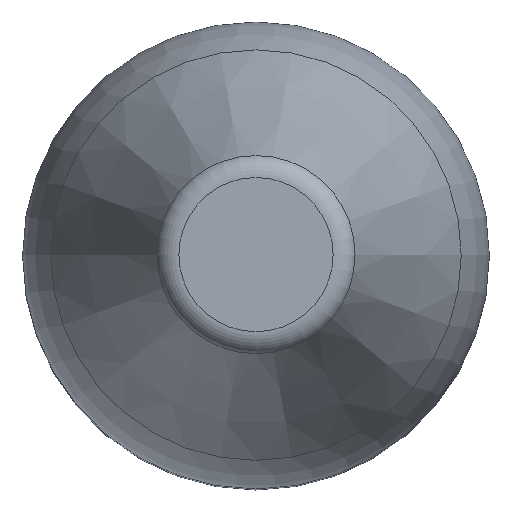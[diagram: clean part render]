
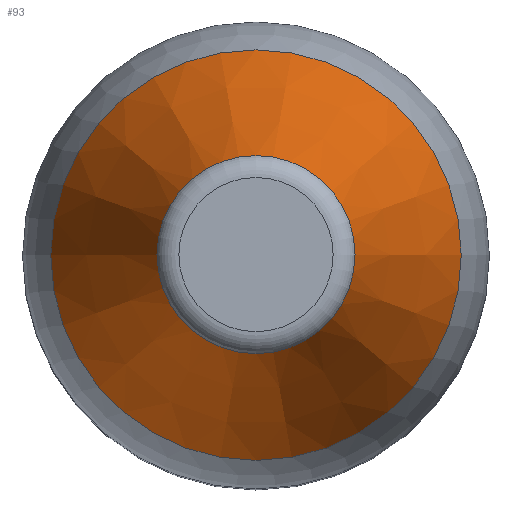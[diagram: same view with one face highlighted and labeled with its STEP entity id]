
A CAD part, top view. The second image highlights one B-rep face of the part: STEP entity #93.
In plain terms, the highlighted conical face has half-angle 20 degrees and reference radius 2.695 mm.
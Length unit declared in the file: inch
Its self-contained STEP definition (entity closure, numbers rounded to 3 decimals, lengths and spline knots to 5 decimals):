
#47 = ORIENTED_EDGE ( 'NONE', *, *, #70, .F. ) ;
#54 = DIRECTION ( 'NONE',  ( -1., 0., 0. ) ) ;
#56 = VERTEX_POINT ( 'NONE', #257 ) ;
#70 = EDGE_CURVE ( 'NONE', #56, #56, #84, .T. ) ;
#77 = AXIS2_PLACEMENT_3D ( 'NONE', #369, #176, #227 ) ;
#84 = CIRCLE ( 'NONE', #360, 0.21985 ) ;
#93 = ADVANCED_FACE ( 'NONE', ( #112, #168 ), #140, .T. ) ;
#98 = VERTEX_POINT ( 'NONE', #326 ) ;
#105 = ORIENTED_EDGE ( 'NONE', *, *, #318, .T. ) ;
#112 = FACE_OUTER_BOUND ( 'NONE', #306, .T. ) ;
#140 = CONICAL_SURFACE ( 'NONE', #77, 0.10609, 0.349 ) ;
#168 = FACE_BOUND ( 'NONE', #355, .T. ) ;
#176 = DIRECTION ( 'NONE',  ( 0., 0., -1. ) ) ;
#227 = DIRECTION ( 'NONE',  ( -1., 0., 0. ) ) ;
#245 = AXIS2_PLACEMENT_3D ( 'NONE', #335, #284, #350 ) ;
#257 = CARTESIAN_POINT ( 'NONE',  ( -0.21985, 0., 0.27101 ) ) ;
#284 = DIRECTION ( 'NONE',  ( 0., 0., -1. ) ) ;
#293 = CIRCLE ( 'NONE', #245, 0.10609 ) ;
#306 = EDGE_LOOP ( 'NONE', ( #47 ) ) ;
#318 = EDGE_CURVE ( 'NONE', #98, #98, #293, .T. ) ;
#326 = CARTESIAN_POINT ( 'NONE',  ( -0.10609, 0., 0.58355 ) ) ;
#335 = CARTESIAN_POINT ( 'NONE',  ( 0., 0., 0.58355 ) ) ;
#337 = CARTESIAN_POINT ( 'NONE',  ( 0., 0., 0.27101 ) ) ;
#340 = DIRECTION ( 'NONE',  ( 0., 0., -1. ) ) ;
#350 = DIRECTION ( 'NONE',  ( -1., 0., 0. ) ) ;
#355 = EDGE_LOOP ( 'NONE', ( #105 ) ) ;
#360 = AXIS2_PLACEMENT_3D ( 'NONE', #337, #340, #54 ) ;
#369 = CARTESIAN_POINT ( 'NONE',  ( 0., 0., 0.58355 ) ) ;
